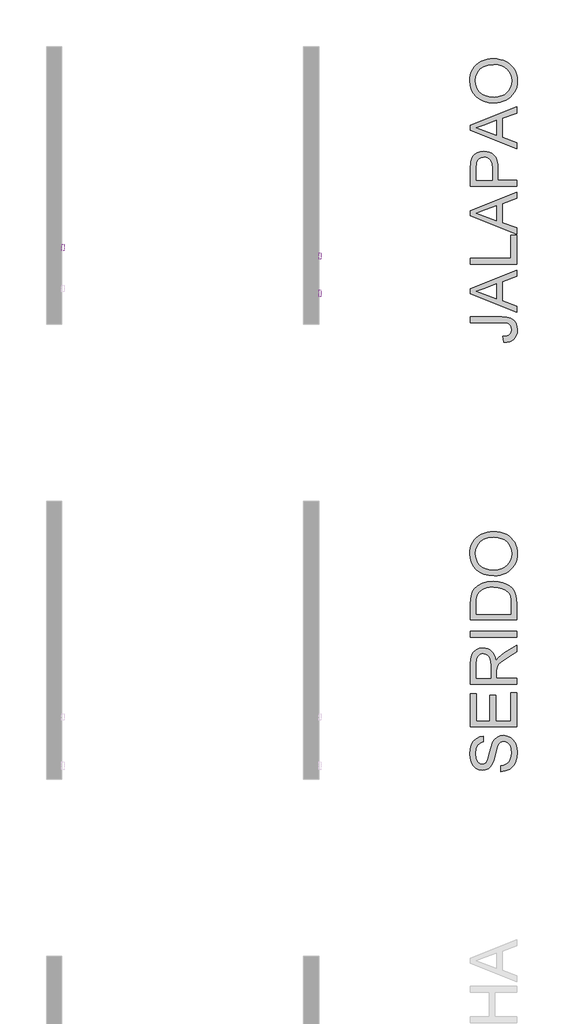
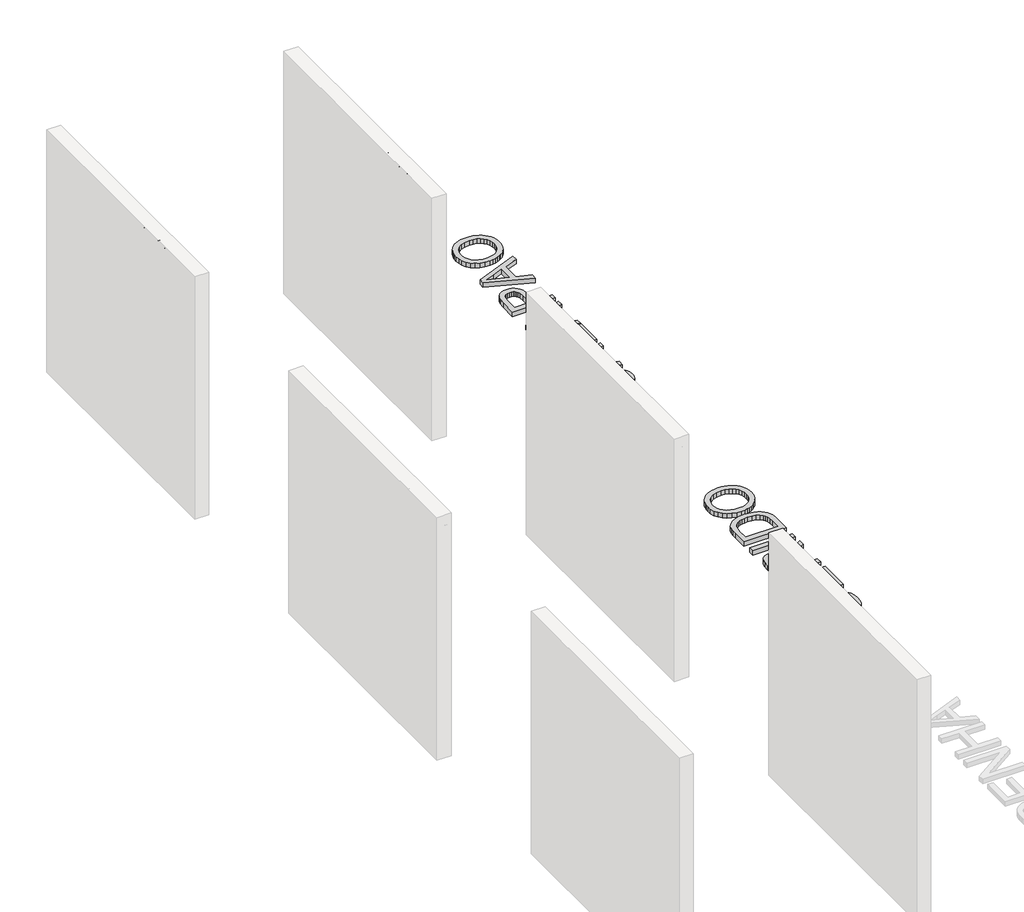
# One storey, part 10 of 11: 5 proxies.
"""IFC4 building model written with IfcOpenShell, lengths in millimetres."""

from ifc_helpers import new_model, si_unit, frame, origin, origin_with_axes, place, context, project, spatial, polyline, outline, extrude, element, save

model = new_model("IFC4")

# Units and contexts
model_context = context("Model", 3, world=origin())
ifc_project = project(units=[si_unit("LENGTHUNIT", "METRE", prefix="MILLI")], contexts=[model_context])

# Site, building, storey
site = spatial("IfcSite", under=ifc_project)
building = spatial("IfcBuilding", under=site)
storey = spatial("IfcBuildingStorey", under=building, Name="PORTOBELLO - SHOWROOM", Elevation=0.0)

# Proxies
placement = place(None, origin())
element("IfcBuildingElementProxy", 1, Name="10mm Arial", ObjectType="10mm Arial", at=placement, inside=storey, context=model_context, shape_type="SweptSolid", body=[
    extrude(outline(polyline([(6073.6705647, 2506.4304512), (6086.2276035, 2508.049132), (6090.5195601, 2493.2112249), (6101.1145616, 2489.2135739), (6109.7107375, 2491.4821795), (6114.6894072, 2497.662597), (6116.0505706, 2510.1092712), (6116.0505706, 2578.6824751), (6128.6076093, 2578.6824751), (6128.6076093, 2510.3300004), (6125.5787143, 2490.8199919), (6115.9647314, 2480.2863041), (6100.5259504, 2476.6565351), (6088.9192734, 2478.5296676), (6080.3905425, 2484.1490651), (6075.2156691, 2493.4656766), (6073.6705647, 2506.4304512)])), frame((-16783.2092306, 0.0, 0.0), z_axis=(1.0, 0.0, 0.0), x_axis=(0.0, 1.0, 0.0)), (0.0, 0.0, 1.0), 20.0),
    extrude(outline(polyline([(6196.1016927, 2487.643944), (6183.9247987, 2479.1336072), (6170.4725804, 2476.6565351), (6159.9787465, 2478.1464572), (6152.2378962, 2482.6162234), (6147.4646273, 2489.4036462), (6145.8735377, 2497.846538), (6148.2770334, 2507.7793519), (6154.5923409, 2514.989839), (6163.3847206, 2519.1101173), (6174.2495022, 2520.9985782), (6196.0281163, 2525.3150603), (6196.1016927, 2528.1109635), (6192.643602, 2537.3815898), (6178.762188, 2541.0113588), (6166.0579965, 2538.5956003), (6160.0002063, 2530.0239499), (6147.4431675, 2531.5935797), (6152.8755583, 2543.8563129), (6163.8139163, 2551.0422745), (6180.3808688, 2553.5683975), (6195.5989207, 2551.3365801), (6204.1950966, 2545.732511), (6208.0455948, 2537.2099115), (6208.6587315, 2526.2225026), (6208.6587315, 2510.5997805), (6209.2963936, 2488.7843782), (6211.7979912, 2478.2261649), (6199.2409524, 2478.2261649), (6196.1016927, 2487.643944)]), holes=[polyline([(6196.1016927, 2512.7580215), (6175.8436575, 2508.9075233), (6165.0401896, 2506.8719096), (6160.1473591, 2503.5609717), (6158.4305764, 2498.7294548), (6162.17071, 2491.9359006), (6173.1458562, 2489.2135739), (6185.8500478, 2492.2179435), (6194.0415536, 2499.4897443), (6196.0281163, 2509.2018289), (6196.1016927, 2512.7580215)])]), frame((-16783.2092306, 0.0, 0.0), z_axis=(1.0, 0.0, 0.0), x_axis=(0.0, 1.0, 0.0)), (0.0, 0.0, 1.0), 20.0),
    extrude(outline(polyline([(-16763.2092306, 6238.4816986), (-16763.2092306, 6225.9246598), (-16783.2092306, 6225.9246598), (-16783.2092306, 6238.4816986), (-16763.2092306, 6238.4816986)])), frame((0.0, 0.0, 2478.2261649), z_axis=(0.0, 0.0, 1.0), x_axis=(1.0, 0.0, 0.0)), (0.0, 0.0, 1.0), 100.4563101),
    extrude(outline(polyline([(6304.4061521, 2487.643944), (6292.2292581, 2479.1336072), (6278.7770398, 2476.6565351), (6268.2832059, 2478.1464572), (6260.5423556, 2482.6162234), (6255.7690867, 2489.4036462), (6254.177997, 2497.846538), (6256.5814927, 2507.7793519), (6262.8968003, 2514.989839), (6271.68918, 2519.1101173), (6282.5539616, 2520.9985782), (6304.3325757, 2525.3150603), (6304.4061521, 2528.1109635), (6300.9480614, 2537.3815898), (6287.0666474, 2541.0113588), (6274.3624558, 2538.5956003), (6268.3046657, 2530.0239499), (6255.7476269, 2531.5935797), (6261.1800177, 2543.8563129), (6272.1183757, 2551.0422745), (6288.6853282, 2553.5683975), (6303.9033801, 2551.3365801), (6312.499556, 2545.732511), (6316.3500542, 2537.2099115), (6316.9631909, 2526.2225026), (6316.9631909, 2510.5997805), (6317.600853, 2488.7843782), (6320.1024506, 2478.2261649), (6307.5454118, 2478.2261649), (6304.4061521, 2487.643944)]), holes=[polyline([(6304.4061521, 2512.7580215), (6284.1481169, 2508.9075233), (6273.344649, 2506.8719096), (6268.4518184, 2503.5609717), (6266.7350358, 2498.7294548), (6270.4751694, 2491.9359006), (6281.4503156, 2489.2135739), (6294.1545072, 2492.2179435), (6302.3460129, 2499.4897443), (6304.3325757, 2509.2018289), (6304.4061521, 2512.7580215)])]), frame((-16783.2092306, 0.0, 0.0), z_axis=(1.0, 0.0, 0.0), x_axis=(0.0, 1.0, 0.0)), (0.0, 0.0, 1.0), 20.0),
    extrude(outline(polyline([(6334.2291192, 2449.9728277), (6334.2291192, 2551.9987677), (6346.786158, 2551.9987677), (6346.786158, 2539.6869836), (6355.468173, 2550.0980441), (6367.191346, 2553.5683975), (6383.1083736, 2548.7123552), (6393.5071713, 2535.027145), (6397.014313, 2515.676552), (6393.0534502, 2495.3326777), (6381.5510065, 2481.4757892), (6365.670767, 2476.6565351), (6354.7446718, 2479.8816339), (6346.786158, 2488.0363515), (6346.786158, 2449.9728277), (6334.2291192, 2449.9728277)]), holes=[polyline([(6346.786158, 2514.5238551), (6348.1442557, 2503.2666661), (6352.2185488, 2495.3939914), (6358.2303537, 2490.7586782), (6365.4009869, 2489.2135739), (6372.6881161, 2490.8138605), (6378.8532052, 2495.6147206), (6383.056257, 2503.7755695), (6384.4572743, 2515.4558228), (6383.0899795, 2526.6516982), (6378.9880953, 2534.6347375), (6372.9854874, 2539.4172035), (6365.9160217, 2541.0113588), (6358.8189649, 2539.3160359), (6352.5864307, 2534.2300673), (6348.2362262, 2525.9128686), (6346.786158, 2514.5238551)])]), frame((-16783.2092306, 0.0, 0.0), z_axis=(1.0, 0.0, 0.0), x_axis=(0.0, 1.0, 0.0)), (0.0, 0.0, 1.0), 20.0),
    extrude(outline(polyline([(6458.229877, 2487.643944), (6446.052983, 2479.1336072), (6432.6007647, 2476.6565351), (6422.1069308, 2478.1464572), (6414.3660805, 2482.6162234), (6409.5928116, 2489.4036462), (6408.001722, 2497.846538), (6410.4052177, 2507.7793519), (6416.7205252, 2514.989839), (6425.5129049, 2519.1101173), (6436.3776865, 2520.9985782), (6458.1563006, 2525.3150603), (6458.229877, 2528.1109635), (6454.7717863, 2537.3815898), (6440.8903723, 2541.0113588), (6428.1861808, 2538.5956003), (6422.1283906, 2530.0239499), (6409.5713518, 2531.5935797), (6415.0037426, 2543.8563129), (6425.9421006, 2551.0422745), (6442.5090531, 2553.5683975), (6457.727105, 2551.3365801), (6466.3232809, 2545.732511), (6470.1737791, 2537.2099115), (6470.7869158, 2526.2225026), (6470.7869158, 2510.5997805), (6471.4245779, 2488.7843782), (6473.9261755, 2478.2261649), (6461.3691367, 2478.2261649), (6458.229877, 2487.643944)]), holes=[polyline([(6458.229877, 2512.7580215), (6437.9718418, 2508.9075233), (6427.1683739, 2506.8719096), (6422.2755434, 2503.5609717), (6420.5587607, 2498.7294548), (6424.2988943, 2491.9359006), (6435.2740405, 2489.2135739), (6447.9782321, 2492.2179435), (6456.1697379, 2499.4897443), (6458.1563006, 2509.2018289), (6458.229877, 2512.7580215)])]), frame((-16783.2092306, 0.0, 0.0), z_axis=(1.0, 0.0, 0.0), x_axis=(0.0, 1.0, 0.0)), (0.0, 0.0, 1.0), 20.0),
    extrude(outline(polyline([(6484.9135844, 2515.1124663), (6487.6297798, 2532.8995608), (6495.778366, 2545.4014173), (6505.8460699, 2551.5266525), (6517.9003366, 2553.5683975), (6531.0919719, 2551.0821284), (6541.6287253, 2543.6233209), (6548.5357098, 2531.7805864), (6550.8380379, 2516.1425359), (6546.7668105, 2493.7998361), (6534.9087476, 2481.1569582), (6517.9003366, 2476.6565351), (6504.5492859, 2479.1336072), (6494.0247952, 2486.5648235), (6487.1913871, 2498.6558784), (6484.9135844, 2515.1124663)]), holes=[polyline([(6497.4706232, 2515.1369918), (6498.9237571, 2503.7725038), (6503.2831587, 2495.6760342), (6509.843721, 2490.829189), (6517.9003366, 2489.2135739), (6525.9201641, 2490.838386), (6532.4684637, 2495.7128224), (6536.8278653, 2503.9165909), (6538.2809992, 2515.5293992), (6536.8186682, 2526.5627934), (6532.4316755, 2534.5488984), (6525.8741789, 2539.3957437), (6517.9003366, 2541.0113588), (6509.843721, 2539.401875), (6503.2831587, 2534.5734239), (6498.9237571, 2526.4953484), (6497.4706232, 2515.1369918)])]), frame((-16783.2092306, 0.0, 0.0), z_axis=(1.0, 0.0, 0.0), x_axis=(0.0, 1.0, 0.0)), (0.0, 0.0, 1.0), 20.0),
])
element("IfcBuildingElementProxy", 2, Name="10mm Arial Narrow", ObjectType="10mm Arial Narrow", at=placement, inside=storey, context=model_context, shape_type="SweptSolid", body=[
    extrude(outline(polyline([(6617.0841432, 2478.2261649), (6617.0841432, 2578.9447687), (6648.3810279, 2578.9447687), (6664.6767294, 2577.066448), (6676.1497156, 2567.5860048), (6680.439394, 2550.566896), (6678.6530856, 2538.4910704), (6673.2941604, 2528.8646766), (6663.5503716, 2522.5634182), (6648.6094723, 2520.4629988), (6626.8311049, 2520.4629988), (6626.8311049, 2478.2261649), (6617.0841432, 2478.2261649)]), holes=[polyline([(6626.8311049, 2531.834454), (6649.8024598, 2531.834454), (6665.6666552, 2536.3652682), (6670.6924323, 2550.033859), (6668.2176179, 2560.1996354), (6662.239989, 2565.9995852), (6649.5740154, 2567.5733134), (6626.8311049, 2567.5733134), (6626.8311049, 2531.834454)])]), frame((-16783.2092306, 0.0, 0.0), z_axis=(1.0, 0.0, 0.0), x_axis=(0.0, 1.0, 0.0)), (0.0, 0.0, 1.0), 20.0),
    extrude(outline(polyline([(6688.561862, 2514.7772711), (6690.5163309, 2531.3680467), (6696.3797375, 2543.3201315), (6705.2383042, 2550.5446861), (6716.1782534, 2552.9528709), (6726.991289, 2550.5446861), (6735.8752384, 2543.3201315), (6741.8147932, 2531.558417), (6743.7946447, 2515.5387525), (6741.8496944, 2498.3768659), (6736.0148433, 2486.2344108), (6727.1657951, 2479.0098562), (6716.1782534, 2476.6016713), (6705.3176252, 2479.0162019), (6696.4431943, 2486.2597935), (6690.5321951, 2498.218224), (6688.561862, 2514.7772711)]), holes=[polyline([(6698.3088237, 2514.8026538), (6699.6128606, 2502.2509024), (6703.5249711, 2493.3796444), (6709.3661679, 2488.1063858), (6716.4574632, 2486.348633), (6723.1775364, 2488.12225), (6728.8696097, 2493.4431012), (6732.7531647, 2502.3302234), (6734.0476831, 2514.8026538), (6732.7436462, 2527.3163312), (6728.8315356, 2536.1748979), (6722.9903389, 2541.4481564), (6715.8990435, 2543.2059093), (6709.1313778, 2541.4386379), (6703.448823, 2536.1368238), (6699.5938235, 2527.2687386), (6698.3088237, 2514.8026538)])]), frame((-16783.2092306, 0.0, 0.0), z_axis=(1.0, 0.0, 0.0), x_axis=(0.0, 1.0, 0.0)), (0.0, 0.0, 1.0), 20.0),
    extrude(outline(polyline([(6815.2723635, 2486.348633), (6816.8968571, 2476.6016713), (6809.5358705, 2476.6016713), (6801.2611062, 2478.7211278), (6796.946045, 2484.5210777), (6795.7784402, 2499.1669029), (6795.7784402, 2541.5814157), (6787.6559722, 2541.5814157), (6787.6559722, 2544.8304029), (6786.0314786, 2539.9569221), (6778.4674302, 2541.5814157), (6772.3882705, 2539.2588975), (6768.5174068, 2532.7736144), (6766.5375553, 2517.3663078), (6766.5375553, 2478.2261649), (6756.7905936, 2478.2261649), (6756.7905936, 2551.3283773), (6766.5375553, 2551.3283773), (6766.5375553, 2541.6321811), (6772.7817026, 2550.7191922), (6779.1781462, 2552.9528709), (6787.6559722, 2551.3283773), (6795.7784402, 2551.3283773), (6795.7784402, 2567.5733134), (6805.5254019, 2575.6957815), (6805.5254019, 2551.3283773), (6815.2723635, 2551.3283773), (6815.2723635, 2541.5814157), (6805.5254019, 2541.5814157), (6805.5254019, 2496.9332241), (6806.3884141, 2488.9376697), (6811.0080678, 2486.348633), (6815.2723635, 2486.348633)])), frame((-16783.2092306, 0.0, 0.0), z_axis=(1.0, 0.0, 0.0), x_axis=(0.0, 1.0, 0.0)), (0.0, 0.0, 1.0), 20.0),
    extrude(outline(polyline([(6821.770338, 2514.7772711), (6823.7248068, 2531.3680467), (6829.5882135, 2543.3201315), (6838.4467802, 2550.5446861), (6849.3867293, 2552.9528709), (6860.1997649, 2550.5446861), (6869.0837143, 2543.3201315), (6875.0232691, 2531.558417), (6877.0031207, 2515.5387525), (6875.0581703, 2498.3768659), (6869.2233192, 2486.2344108), (6860.3742711, 2479.0098562), (6849.3867293, 2476.6016713), (6838.5261011, 2479.0162019), (6829.6516702, 2486.2597935), (6823.740671, 2498.218224), (6821.770338, 2514.7772711)]), holes=[polyline([(6831.5172996, 2514.8026538), (6832.8213365, 2502.2509024), (6836.7334471, 2493.3796444), (6842.5746438, 2488.1063858), (6849.6659392, 2486.348633), (6856.3860123, 2488.12225), (6862.0780856, 2493.4431012), (6865.9616407, 2502.3302234), (6867.256159, 2514.8026538), (6865.9521222, 2527.3163312), (6862.0400116, 2536.1748979), (6856.1988148, 2541.4481564), (6849.1075195, 2543.2059093), (6842.3398537, 2541.4386379), (6836.6572989, 2536.1368238), (6832.8022994, 2527.2687386), (6831.5172996, 2514.8026538)])]), frame((-16783.2092306, 0.0, 0.0), z_axis=(1.0, 0.0, 0.0), x_axis=(0.0, 1.0, 0.0)), (0.0, 0.0, 1.0), 20.0),
    extrude(outline(polyline([(6899.7460312, 2478.2261649), (6889.9990695, 2478.2261649), (6889.9990695, 2578.9447687), (6899.7460312, 2578.9447687), (6899.7460312, 2543.5358846), (6907.1450919, 2550.6176614), (6916.3463253, 2552.9528709), (6929.2280519, 2548.752032), (6938.5054334, 2536.0226016), (6941.982865, 2515.3356908), (6940.050606, 2498.8813473), (6934.253829, 2486.6786082), (6925.8807067, 2479.1209056), (6916.2194117, 2476.6016713), (6906.8785734, 2479.2160907), (6899.7460312, 2486.9832008), (6899.7460312, 2478.2261649)]), holes=[polyline([(6899.7460312, 2515.3356908), (6901.8274136, 2498.0881376), (6907.716203, 2489.3564844), (6916.1686463, 2486.348633), (6922.1113739, 2488.1381142), (6927.3497312, 2493.5065579), (6932.2359034, 2514.9295674), (6927.5274102, 2536.3652682), (6922.2827072, 2541.495749), (6915.9655846, 2543.2059093), (6909.9879557, 2541.416428), (6904.6956602, 2536.0479843), (6899.7460312, 2515.3356908)])]), frame((-16783.2092306, 0.0, 0.0), z_axis=(1.0, 0.0, 0.0), x_axis=(0.0, 1.0, 0.0)), (0.0, 0.0, 1.0), 20.0),
    extrude(outline(polyline([(6993.9666605, 2500.9690755), (7003.7136222, 2499.3445819), (7000.0140918, 2489.4580153), (6994.1951049, 2482.3381644), (6986.4914516, 2478.0357946), (6977.137922, 2476.6016713), (6965.544368, 2479.0162019), (6956.4002458, 2486.2597935), (6950.460691, 2498.0659277), (6948.4808395, 2514.168086), (6950.4702096, 2530.8350097), (6956.4383199, 2543.0155389), (6965.4523557, 2550.4685379), (6976.5795024, 2552.9528709), (6987.2624515, 2550.5542046), (6996.0099689, 2543.3582056), (7001.8448199, 2531.618701), (7003.7897703, 2515.5895179), (7003.7136222, 2512.3405307), (6958.2278011, 2512.3405307), (6964.2308127, 2492.8973728), (6970.1608489, 2487.9858179), (6977.2648356, 2486.348633), (6987.4433034, 2490.0037436), (6993.9666605, 2500.9690755)]), holes=[polyline([(6958.8877516, 2522.0874924), (6993.9666605, 2522.0874924), (6989.7023648, 2536.3525769), (6983.8770322, 2541.4925762), (6976.6556505, 2543.2059093), (6964.4465657, 2537.4947989), (6958.8877516, 2522.0874924)])]), frame((-16783.2092306, 0.0, 0.0), z_axis=(1.0, 0.0, 0.0), x_axis=(0.0, 1.0, 0.0)), (0.0, 0.0, 1.0), 20.0),
    extrude(outline(polyline([(-16763.2092306, 7026.4565327), (-16763.2092306, 7016.709571), (-16783.2092306, 7016.709571), (-16783.2092306, 7026.4565327), (-16763.2092306, 7026.4565327)])), frame((0.0, 0.0, 2478.2261649), z_axis=(0.0, 0.0, 1.0), x_axis=(1.0, 0.0, 0.0)), (0.0, 0.0, 1.0), 100.7186038),
    extrude(outline(polyline([(-16763.2092306, 7052.4484304), (-16763.2092306, 7042.7014688), (-16783.2092306, 7042.7014688), (-16783.2092306, 7052.4484304), (-16763.2092306, 7052.4484304)])), frame((0.0, 0.0, 2478.2261649), z_axis=(0.0, 0.0, 1.0), x_axis=(1.0, 0.0, 0.0)), (0.0, 0.0, 1.0), 100.7186038),
    extrude(outline(polyline([(7063.8198857, 2514.7772711), (7065.7743546, 2531.3680467), (7071.6377612, 2543.3201315), (7080.4963279, 2550.5446861), (7091.436277, 2552.9528709), (7102.2493126, 2550.5446861), (7111.1332621, 2543.3201315), (7117.0728168, 2531.558417), (7119.0526684, 2515.5387525), (7117.107718, 2498.3768659), (7111.272867, 2486.2344108), (7102.4238188, 2479.0098562), (7091.436277, 2476.6016713), (7080.5756489, 2479.0162019), (7071.701218, 2486.2597935), (7065.7902188, 2498.218224), (7063.8198857, 2514.7772711)]), holes=[polyline([(7073.5668473, 2514.8026538), (7074.8708842, 2502.2509024), (7078.7829948, 2493.3796444), (7084.6241915, 2488.1063858), (7091.7154869, 2486.348633), (7098.4355601, 2488.12225), (7104.1276334, 2493.4431012), (7108.0111884, 2502.3302234), (7109.3057067, 2514.8026538), (7108.0016699, 2527.3163312), (7104.0895593, 2536.1748979), (7098.2483626, 2541.4481564), (7091.1570672, 2543.2059093), (7084.3894015, 2541.4386379), (7078.7068467, 2536.1368238), (7074.8518472, 2527.2687386), (7073.5668473, 2514.8026538)])]), frame((-16783.2092306, 0.0, 0.0), z_axis=(1.0, 0.0, 0.0), x_axis=(0.0, 1.0, 0.0)), (0.0, 0.0, 1.0), 20.0),
])
element("IfcBuildingElementProxy", 3, Name="10mm Arial Narrow", ObjectType="10mm Arial Narrow", at=placement, inside=storey, context=model_context, shape_type="SweptSolid", body=[
    extrude(outline(polyline([(6697.0841432, 2478.2261649), (6697.0841432, 2578.9447687), (6728.3810279, 2578.9447687), (6744.6767294, 2577.066448), (6756.1497156, 2567.5860048), (6760.439394, 2550.566896), (6758.6530856, 2538.4910704), (6753.2941604, 2528.8646766), (6743.5503716, 2522.5634182), (6728.6094723, 2520.4629988), (6706.8311049, 2520.4629988), (6706.8311049, 2478.2261649), (6697.0841432, 2478.2261649)]), holes=[polyline([(6706.8311049, 2531.834454), (6729.8024598, 2531.834454), (6745.6666552, 2536.3652682), (6750.6924323, 2550.033859), (6748.2176179, 2560.1996354), (6742.239989, 2565.9995852), (6729.5740154, 2567.5733134), (6706.8311049, 2567.5733134), (6706.8311049, 2531.834454)])]), frame((-19283.2092306, 0.0, 0.0), z_axis=(1.0, 0.0, 0.0), x_axis=(0.0, 1.0, 0.0)), (0.0, 0.0, 1.0), 20.0),
    extrude(outline(polyline([(6768.561862, 2514.7772711), (6770.5163309, 2531.3680467), (6776.3797375, 2543.3201315), (6785.2383042, 2550.5446861), (6796.1782534, 2552.9528709), (6806.991289, 2550.5446861), (6815.8752384, 2543.3201315), (6821.8147932, 2531.558417), (6823.7946447, 2515.5387525), (6821.8496944, 2498.3768659), (6816.0148433, 2486.2344108), (6807.1657951, 2479.0098562), (6796.1782534, 2476.6016713), (6785.3176252, 2479.0162019), (6776.4431943, 2486.2597935), (6770.5321951, 2498.218224), (6768.561862, 2514.7772711)]), holes=[polyline([(6778.3088237, 2514.8026538), (6779.6128605, 2502.2509024), (6783.5249711, 2493.3796444), (6789.3661679, 2488.1063858), (6796.4574632, 2486.348633), (6803.1775364, 2488.12225), (6808.8696097, 2493.4431012), (6812.7531647, 2502.3302234), (6814.0476831, 2514.8026538), (6812.7436462, 2527.3163312), (6808.8315356, 2536.1748979), (6802.9903389, 2541.4481564), (6795.8990435, 2543.2059093), (6789.1313778, 2541.4386379), (6783.448823, 2536.1368238), (6779.5938235, 2527.2687386), (6778.3088237, 2514.8026538)])]), frame((-19283.2092306, 0.0, 0.0), z_axis=(1.0, 0.0, 0.0), x_axis=(0.0, 1.0, 0.0)), (0.0, 0.0, 1.0), 20.0),
    extrude(outline(polyline([(6895.2723635, 2486.348633), (6896.8968571, 2476.6016713), (6889.5358705, 2476.6016713), (6881.2611062, 2478.7211278), (6876.946045, 2484.5210777), (6875.7784402, 2499.1669029), (6875.7784402, 2541.5814157), (6867.6559722, 2541.5814157), (6867.6559722, 2544.8304029), (6866.0314786, 2539.9569221), (6858.4674302, 2541.5814157), (6852.3882705, 2539.2588975), (6848.5174068, 2532.7736144), (6846.5375553, 2517.3663078), (6846.5375553, 2478.2261649), (6836.7905936, 2478.2261649), (6836.7905936, 2551.3283773), (6846.5375553, 2551.3283773), (6846.5375553, 2541.6321811), (6852.7817026, 2550.7191922), (6859.1781462, 2552.9528709), (6867.6559722, 2551.3283773), (6875.7784402, 2551.3283773), (6875.7784402, 2567.5733134), (6885.5254019, 2575.6957815), (6885.5254019, 2551.3283773), (6895.2723635, 2551.3283773), (6895.2723635, 2541.5814157), (6885.5254019, 2541.5814157), (6885.5254019, 2496.9332241), (6886.3884141, 2488.9376697), (6891.0080678, 2486.348633), (6895.2723635, 2486.348633)])), frame((-19283.2092306, 0.0, 0.0), z_axis=(1.0, 0.0, 0.0), x_axis=(0.0, 1.0, 0.0)), (0.0, 0.0, 1.0), 20.0),
    extrude(outline(polyline([(6901.770338, 2514.7772711), (6903.7248068, 2531.3680467), (6909.5882135, 2543.3201315), (6918.4467802, 2550.5446861), (6929.3867293, 2552.9528709), (6940.1997649, 2550.5446861), (6949.0837143, 2543.3201315), (6955.0232691, 2531.558417), (6957.0031207, 2515.5387525), (6955.0581703, 2498.3768659), (6949.2233192, 2486.2344108), (6940.3742711, 2479.0098562), (6929.3867293, 2476.6016713), (6918.5261011, 2479.0162019), (6909.6516702, 2486.2597935), (6903.740671, 2498.218224), (6901.770338, 2514.7772711)]), holes=[polyline([(6911.5172996, 2514.8026538), (6912.8213365, 2502.2509024), (6916.7334471, 2493.3796444), (6922.5746438, 2488.1063858), (6929.6659392, 2486.348633), (6936.3860123, 2488.12225), (6942.0780856, 2493.4431012), (6945.9616407, 2502.3302234), (6947.256159, 2514.8026538), (6945.9521222, 2527.3163312), (6942.0400116, 2536.1748979), (6936.1988148, 2541.4481564), (6929.1075195, 2543.2059093), (6922.3398537, 2541.4386379), (6916.6572989, 2536.1368238), (6912.8022994, 2527.2687386), (6911.5172996, 2514.8026538)])]), frame((-19283.2092306, 0.0, 0.0), z_axis=(1.0, 0.0, 0.0), x_axis=(0.0, 1.0, 0.0)), (0.0, 0.0, 1.0), 20.0),
    extrude(outline(polyline([(6979.7460312, 2478.2261649), (6969.9990695, 2478.2261649), (6969.9990695, 2578.9447687), (6979.7460312, 2578.9447687), (6979.7460312, 2543.5358846), (6987.1450919, 2550.6176614), (6996.3463253, 2552.9528709), (7009.2280519, 2548.752032), (7018.5054334, 2536.0226016), (7021.982865, 2515.3356908), (7020.050606, 2498.8813473), (7014.253829, 2486.6786082), (7005.8807067, 2479.1209056), (6996.2194117, 2476.6016713), (6986.8785734, 2479.2160907), (6979.7460312, 2486.9832008), (6979.7460312, 2478.2261649)]), holes=[polyline([(6979.7460312, 2515.3356908), (6981.8274136, 2498.0881376), (6987.716203, 2489.3564844), (6996.1686463, 2486.348633), (7002.1113739, 2488.1381142), (7007.3497312, 2493.5065579), (7012.2359034, 2514.9295674), (7007.5274102, 2536.3652682), (7002.2827072, 2541.495749), (6995.9655846, 2543.2059093), (6989.9879557, 2541.416428), (6984.6956602, 2536.0479843), (6979.7460312, 2515.3356908)])]), frame((-19283.2092306, 0.0, 0.0), z_axis=(1.0, 0.0, 0.0), x_axis=(0.0, 1.0, 0.0)), (0.0, 0.0, 1.0), 20.0),
    extrude(outline(polyline([(7073.9666605, 2500.9690755), (7083.7136222, 2499.3445819), (7080.0140918, 2489.4580153), (7074.1951049, 2482.3381644), (7066.4914516, 2478.0357946), (7057.137922, 2476.6016713), (7045.544368, 2479.0162019), (7036.4002458, 2486.2597935), (7030.460691, 2498.0659277), (7028.4808395, 2514.168086), (7030.4702096, 2530.8350097), (7036.4383199, 2543.0155389), (7045.4523557, 2550.4685379), (7056.5795024, 2552.9528709), (7067.2624515, 2550.5542046), (7076.0099689, 2543.3582056), (7081.8448199, 2531.618701), (7083.7897703, 2515.5895179), (7083.7136222, 2512.3405307), (7038.2278011, 2512.3405307), (7044.2308127, 2492.8973728), (7050.1608489, 2487.9858179), (7057.2648356, 2486.348633), (7067.4433034, 2490.0037436), (7073.9666605, 2500.9690755)]), holes=[polyline([(7038.8877516, 2522.0874924), (7073.9666605, 2522.0874924), (7069.7023648, 2536.3525769), (7063.8770322, 2541.4925762), (7056.6556505, 2543.2059093), (7044.4465657, 2537.4947989), (7038.8877516, 2522.0874924)])]), frame((-19283.2092306, 0.0, 0.0), z_axis=(1.0, 0.0, 0.0), x_axis=(0.0, 1.0, 0.0)), (0.0, 0.0, 1.0), 20.0),
    extrude(outline(polyline([(-19263.2092306, 7106.4565327), (-19263.2092306, 7096.709571), (-19283.2092306, 7096.709571), (-19283.2092306, 7106.4565327), (-19263.2092306, 7106.4565327)])), frame((0.0, 0.0, 2478.2261649), z_axis=(0.0, 0.0, 1.0), x_axis=(1.0, 0.0, 0.0)), (0.0, 0.0, 1.0), 100.7186038),
    extrude(outline(polyline([(-19263.2092306, 7132.4484304), (-19263.2092306, 7122.7014688), (-19283.2092306, 7122.7014688), (-19283.2092306, 7132.4484304), (-19263.2092306, 7132.4484304)])), frame((0.0, 0.0, 2478.2261649), z_axis=(0.0, 0.0, 1.0), x_axis=(1.0, 0.0, 0.0)), (0.0, 0.0, 1.0), 100.7186038),
    extrude(outline(polyline([(7143.8198857, 2514.7772711), (7145.7743546, 2531.3680467), (7151.6377612, 2543.3201315), (7160.4963279, 2550.5446861), (7171.436277, 2552.9528709), (7182.2493126, 2550.5446861), (7191.1332621, 2543.3201315), (7197.0728168, 2531.558417), (7199.0526684, 2515.5387525), (7197.107718, 2498.3768659), (7191.272867, 2486.2344108), (7182.4238188, 2479.0098562), (7171.436277, 2476.6016713), (7160.5756489, 2479.0162019), (7151.701218, 2486.2597935), (7145.7902188, 2498.218224), (7143.8198857, 2514.7772711)]), holes=[polyline([(7153.5668473, 2514.8026538), (7154.8708842, 2502.2509024), (7158.7829948, 2493.3796444), (7164.6241915, 2488.1063858), (7171.7154869, 2486.348633), (7178.4355601, 2488.12225), (7184.1276334, 2493.4431012), (7188.0111884, 2502.3302234), (7189.3057067, 2514.8026538), (7188.0016699, 2527.3163312), (7184.0895593, 2536.1748979), (7178.2483626, 2541.4481564), (7171.1570672, 2543.2059093), (7164.3894014, 2541.4386379), (7158.7068467, 2536.1368238), (7154.8518472, 2527.2687386), (7153.5668473, 2514.8026538)])]), frame((-19283.2092306, 0.0, 0.0), z_axis=(1.0, 0.0, 0.0), x_axis=(0.0, 1.0, 0.0)), (0.0, 0.0, 1.0), 20.0),
])
element("IfcBuildingElementProxy", 4, Name="450mm Arial", ObjectType="450mm Arial", at=placement, inside=storey, context=model_context, shape_type="SweptSolid", body=[
    extrude(outline(polyline([(-14986.4291634, 5810.6674106), (-14993.6745993, 5866.8744284), (-14952.8092431, 5872.7201778), (-14938.1193962, 5878.4630091), (-14927.2581036, 5886.0858115), (-14913.8375803, 5906.5047672), (-14909.3640725, 5933.5104828), (-14911.9027196, 5954.2724989), (-14919.5186607, 5971.9881386), (-14931.5120527, 5985.6556654), (-14947.1830523, 5994.2733429), (-14969.8662067, 5998.8429076), (-15002.8960632, 6000.3660958), (-15309.8390747, 6000.3660958), (-15309.8390747, 6056.5731137), (-15003.8840772, 6056.5731137), (-14953.8384243, 6053.1836768), (-14916.5546188, 6043.0153662), (-14889.3156221, 6025.4781179), (-14869.4043958, 5999.9818681), (-14857.21889, 5967.9674705), (-14853.1570547, 5930.8757788), (-14855.2531538, 5903.1770812), (-14861.5414511, 5878.9227101), (-14872.0219467, 5858.1126655), (-14886.6946405, 5840.7469475), (-14905.5046429, 5827.1343103), (-14928.3970642, 5817.5835085), (-14955.3719043, 5812.0945419), (-14986.4291634, 5810.6674106)])), origin_with_axes(), (0.0, 0.0, 1.0), 50.0),
    extrude(outline(polyline([(-14860.1829319, 6102.5706537), (-15309.8390747, 6282.0598611), (-15309.8390747, 6329.9236497), (-14860.1829319, 6509.4128571), (-14860.1829319, 6450.0222386), (-15000.7004765, 6398.535732), (-15000.7004765, 6213.3379994), (-14860.1829319, 6161.9612721), (-14860.1829319, 6102.5706537)]), holes=[polyline([(-15056.9074944, 6233.9765138), (-15056.9074944, 6378.006997), (-15167.4552815, 6337.4984236), (-15253.6320569, 6305.9917554), (-15177.1158627, 6277.9980258), (-15056.9074944, 6233.9765138)])]), origin_with_axes(), (0.0, 0.0, 1.0), 50.0),
    extrude(outline(polyline([(-14860.1829319, 6569.4621516), (-15309.8390747, 6569.4621516), (-15309.8390747, 6625.6691694), (-14916.3899498, 6625.6691694), (-14916.3899498, 6850.4972408), (-14860.1829319, 6850.4972408), (-14860.1829319, 6569.4621516)])), origin_with_axes(), (0.0, 0.0, 1.0), 50.0),
    extrude(outline(polyline([(-14860.1829319, 6861.3653947), (-15309.8390747, 7040.8546021), (-15309.8390747, 7088.7183907), (-14860.1829319, 7268.2075981), (-14860.1829319, 7208.8169796), (-15000.7004765, 7157.330473), (-15000.7004765, 6972.1327404), (-14860.1829319, 6920.7560131), (-14860.1829319, 6861.3653947)]), holes=[polyline([(-15056.9074944, 6992.7712548), (-15056.9074944, 7136.801738), (-15167.4552815, 7096.2931646), (-15253.6320569, 7064.7864964), (-15177.1158627, 7036.7927668), (-15056.9074944, 6992.7712548)])]), origin_with_axes(), (0.0, 0.0, 1.0), 50.0),
    extrude(outline(polyline([(-14860.1829319, 7328.2568926), (-15309.8390747, 7328.2568926), (-15309.8390747, 7494.9019181), (-15305.5576808, 7562.0868692), (-15297.557512, 7592.0429043), (-15284.5349388, 7616.7020867), (-15265.8998972, 7636.5584233), (-15241.0623234, 7652.1059212), (-15211.7649642, 7662.1507301), (-15179.7505666, 7665.4989997), (-15152.1479259, 7663.2382316), (-15126.7545942, 7656.4559272), (-15103.5705716, 7645.1520867), (-15082.595858, 7629.3267099), (-15065.2095564, 7607.600694), (-15052.7907695, 7578.5949362), (-15045.3394973, 7542.3094364), (-15042.8557399, 7498.7441948), (-15042.8557399, 7384.4639104), (-14860.1829319, 7384.4639104), (-14860.1829319, 7328.2568926)]), holes=[polyline([(-15099.0627578, 7384.4639104), (-15099.0627578, 7502.0375747), (-15104.2223864, 7551.8773913), (-15110.6719221, 7570.4575432), (-15119.7012722, 7584.8111908), (-15131.0702942, 7595.5215369), (-15144.538846, 7603.1717841), (-15160.1069274, 7607.7619324), (-15177.7745386, 7609.2919818), (-15203.0237849, 7605.6829863), (-15224.3209753, 7594.8559997), (-15240.3487577, 7578.1558189), (-15249.7897803, 7556.9272406), (-15253.6320569, 7500.7202227), (-15253.6320569, 7384.4639104), (-15099.0627578, 7384.4639104)])]), origin_with_axes(), (0.0, 0.0, 1.0), 50.0),
    extrude(outline(polyline([(-14860.1829319, 7690.418908), (-15309.8390747, 7869.9081154), (-15309.8390747, 7917.771904), (-14860.1829319, 8097.2611114), (-14860.1829319, 8037.8704929), (-15000.7004765, 7986.3839864), (-15000.7004765, 7801.1862537), (-14860.1829319, 7749.8095265), (-14860.1829319, 7690.418908)]), holes=[polyline([(-15056.9074944, 7821.8247681), (-15056.9074944, 7965.8552513), (-15167.4552815, 7925.3466779), (-15253.6320569, 7893.8400097), (-15177.1158627, 7865.8462801), (-15056.9074944, 7821.8247681)])]), origin_with_axes(), (0.0, 0.0, 1.0), 50.0),
    extrude(outline(polyline([(-15079.0829194, 8136.2327742), (-15131.8250271, 8139.9789939), (-15178.5155491, 8151.217653), (-15219.1544855, 8169.9487515), (-15253.7418362, 8196.1722893), (-15281.3581994, 8228.3170499), (-15301.084173, 8264.8118165), (-15312.9197572, 8305.6565891), (-15316.864952, 8350.8513677), (-15315.0124257, 8381.1024348), (-15309.4548471, 8409.8303137), (-15300.192216, 8437.0350044), (-15287.2245324, 8462.7165068), (-15270.9428853, 8486.1543941), (-15251.7383634, 8506.6282395), (-15229.6109669, 8524.1380429), (-15204.5606956, 8538.6838044), (-15177.1570299, 8550.1145773), (-15147.9694501, 8558.2794151), (-15116.9979561, 8563.1783178), (-15084.242548, 8564.8112853), (-15051.0548838, 8563.0925526), (-15019.6648561, 8557.9363547), (-14990.072465, 8549.3426913), (-14962.2777104, 8537.3115627), (-14937.0147417, 8522.1277089), (-14915.0177081, 8504.07587), (-14896.2866096, 8483.1560461), (-14880.8214463, 8459.3682372), (-14868.718275, 8433.6489981), (-14860.0731526, 8406.9348838), (-14854.8860792, 8379.2258944), (-14853.1570547, 8350.5220298), (-14855.0679012, 8319.7426496), (-14860.8004407, 8290.6374043), (-14870.3546731, 8263.2062938), (-14883.7305986, 8237.4493181), (-14900.4101958, 8214.0388756), (-14919.8754435, 8193.6473647), (-14942.1263418, 8176.2747854), (-14967.1628907, 8161.9211378), (-14993.9799231, 8150.6824787), (-15021.572272, 8142.6548651), (-15049.9399374, 8137.8382969), (-15079.0829194, 8136.2327742)]), holes=[polyline([(-15078.5340227, 8192.439792), (-15041.2708008, 8195.2494568), (-15008.1929159, 8203.6784511), (-14979.3003681, 8217.726775), (-14954.5931572, 8237.3944284), (-14934.8054327, 8261.3023085), (-14920.6713437, 8288.0713124), (-14912.1908903, 8317.7014402), (-14909.3640725, 8350.1926918), (-14912.2183352, 8383.2397012), (-14920.781123, 8413.2197506), (-14935.0524362, 8440.1328399), (-14955.0322745, 8463.9789691), (-14980.2609372, 8483.5025371), (-15010.2787232, 8497.4479429), (-15045.0856326, 8505.8151863), (-15084.6816653, 8508.6042675), (-15134.4391474, 8503.8288665), (-15177.4452006, 8489.5026637), (-15212.6157541, 8465.9961643), (-15238.8667368, 8433.6798735), (-15255.2101348, 8394.6944884), (-15260.6579341, 8351.1807057), (-15258.033522, 8319.8181229), (-15250.1602855, 8290.7197388), (-15237.0382248, 8263.8855534), (-15218.6673397, 8239.3155667), (-15194.1625345, 8218.8074153), (-15162.6387133, 8204.1587357), (-15124.095876, 8195.369528), (-15078.5340227, 8192.439792)])]), origin_with_axes(), (0.0, 0.0, 1.0), 50.0),
])
element("IfcBuildingElementProxy", 5, Name="450mm Arial", ObjectType="450mm Arial", at=placement, inside=storey, context=model_context, shape_type="SweptSolid", body=[
    extrude(outline(polyline([(-15014.752231, 1637.6932878), (-15014.752231, 1693.9003056), (-14983.5611784, 1700.3498414), (-14958.4903235, 1712.0138954), (-14938.5928196, 1730.2098196), (-14922.92182, 1756.2549661), (-14912.7535094, 1788.0909723), (-14909.3640725, 1823.6594758), (-14911.9301644, 1854.9740301), (-14919.6284401, 1882.3914182), (-14931.8139459, 1904.6080105), (-14947.8417283, 1920.3201774), (-14966.2434888, 1929.665143), (-14985.5509288, 1932.7801315), (-15004.3643617, 1930.4473207), (-15020.6254253, 1923.4488883), (-15034.4987883, 1909.2324649), (-15046.1491199, 1885.2456809), (-15067.6109792, 1803.4051891), (-15081.8136803, 1749.6819286), (-15095.3302605, 1715.3072753), (-15114.2397504, 1687.3272682), (-15137.1561859, 1667.4983764), (-15163.58556, 1655.6833758), (-15193.0338658, 1651.7450422), (-15225.9539429, 1656.6165001), (-15256.6509885, 1671.2308736), (-15282.6686901, 1695.2039352), (-15301.5507352, 1728.1514571), (-15313.0363978, 1767.6994614), (-15316.864952, 1811.4739699), (-15312.8580064, 1858.8986412), (-15300.8371695, 1900.3952286), (-15281.049445, 1934.4817112), (-15253.7418362, 1959.6760678), (-15220.6159229, 1975.6215157), (-15183.3732846, 1981.9612721), (-15183.3732846, 1925.7542543), (-15201.3084829, 1921.9943122), (-15216.9108704, 1915.4349971), (-15230.1804471, 1906.0763091), (-15241.1172131, 1893.9182481), (-15249.6662785, 1878.7343943), (-15255.7727538, 1860.2983277), (-15260.6579341, 1813.6695566), (-15255.8276435, 1765.9429921), (-15249.7897803, 1747.6990394), (-15241.3367717, 1733.2013064), (-15220.0121365, 1714.2643717), (-15207.8472143, 1709.530138), (-15194.6805557, 1707.9520601), (-15173.0814722, 1712.4255679), (-15155.708893, 1725.8460912), (-15140.1751175, 1757.572318), (-15124.3120041, 1817.6216125), (-15109.2447908, 1879.5920453), (-15096.0987158, 1917.0816871), (-15075.707205, 1949.1235295), (-15050.5402932, 1971.4773459), (-15020.8724288, 1984.6096985), (-14986.9780601, 1988.9871494), (-14952.3289585, 1983.9510225), (-14919.7382194, 1968.842642), (-14891.6896001, 1944.2795165), (-14870.6668581, 1910.8791548), (-14857.5345055, 1870.7136418), (-14853.1570547, 1825.8550624), (-14857.8775659, 1770.7870051), (-14872.0390997, 1725.4618635), (-14882.6739725, 1706.3225231), (-14895.6965457, 1689.3581858), (-14911.1068194, 1674.5688514), (-14928.9047936, 1661.9545201), (-14969.3584773, 1644.3623822), (-15014.752231, 1637.6932878)])), origin_with_axes(), (0.0, 0.0, 1.0), 50.0),
    extrude(outline(polyline([(-14860.1829319, 2073.2976761), (-15309.8390747, 2073.2976761), (-15309.8390747, 2396.4880288), (-15253.6320569, 2396.4880288), (-15253.6320569, 2129.504694), (-15120.1403895, 2129.504694), (-15120.1403895, 2382.4362743), (-15063.9333716, 2382.4362743), (-15063.9333716, 2129.504694), (-14916.3899498, 2129.504694), (-14916.3899498, 2403.513906), (-14860.1829319, 2403.513906), (-14860.1829319, 2073.2976761)])), origin_with_axes(), (0.0, 0.0, 1.0), 50.0),
    extrude(outline(polyline([(-14860.1829319, 2487.8244328), (-15309.8390747, 2487.8244328), (-15309.8390747, 2681.5849533), (-15306.8064207, 2733.6615238), (-15297.7084586, 2771.5491157), (-15280.9122208, 2799.2409521), (-15254.7847399, 2820.7302563), (-15222.3861146, 2834.5212849), (-15186.7764438, 2839.1182944), (-15163.6816169, 2837.2143091), (-15142.4804835, 2831.5023532), (-15123.1730435, 2821.9824268), (-15105.759297, 2808.6545298), (-15090.7950019, 2791.347132), (-15078.8359159, 2769.8887033), (-15069.8820392, 2744.2792436), (-15063.9333716, 2714.5187528), (-15039.891698, 2746.4645384), (-14982.0379901, 2792.0229611), (-14860.1829319, 2867.0022446), (-14860.1829319, 2801.6835423), (-14953.3855846, 2743.1711584), (-15015.081569, 2700.9061157), (-15033.071657, 2685.1939489), (-15044.2279816, 2671.2108065), (-15054.9314664, 2644.4795392), (-15056.9074944, 2611.8750777), (-15056.9074944, 2544.0314507), (-14860.1829319, 2544.0314507), (-14860.1829319, 2487.8244328)]), holes=[polyline([(-15113.1145122, 2544.0314507), (-15113.1145122, 2669.8385648), (-15115.1042626, 2705.9696874), (-15121.0735138, 2734.0045842), (-15131.4202158, 2755.1096608), (-15146.5423188, 2770.4513224), (-15164.8342999, 2779.796288), (-15184.6906365, 2782.9112765), (-15199.0648678, 2781.4258249), (-15212.1080246, 2776.9694702), (-15234.2011152, 2759.1440512), (-15242.7021522, 2745.5348447), (-15248.7743214, 2728.4744504), (-15253.6320569, 2684.0000986), (-15253.6320569, 2544.0314507), (-15113.1145122, 2544.0314507)])]), origin_with_axes(), (0.0, 0.0, 1.0), 50.0),
    extrude(outline(polyline([(-14860.1829319, 2944.5064528), (-15309.8390747, 2944.5064528), (-15309.8390747, 3000.7134707), (-14860.1829319, 3000.7134707), (-14860.1829319, 2944.5064528)])), origin_with_axes(), (0.0, 0.0, 1.0), 50.0),
    extrude(outline(polyline([(-14860.1829319, 3113.1275064), (-15309.8390747, 3113.1275064), (-15309.8390747, 3268.2457022), (-15308.2198296, 3314.600025), (-15303.3620942, 3348.4943937), (-15290.8746952, 3384.3373455), (-15271.19675, 3414.5815514), (-15236.9455985, 3445.6765471), (-15194.3512177, 3467.8245273), (-15144.2369528, 3481.0803816), (-15087.4261486, 3485.4989997), (-15039.1644099, 3482.5075129), (-14996.6935309, 3473.5330525), (-14960.5349635, 3459.8655257), (-14931.2101595, 3442.7948396), (-14908.060443, 3423.1443392), (-14890.4271378, 3401.7373696), (-14877.3496749, 3377.1605217), (-14867.8674851, 3348.0003867), (-14862.1040702, 3314.2020749), (-14860.1829319, 3275.7106967), (-14860.1829319, 3113.1275064)]), holes=[polyline([(-14916.3899498, 3169.3345243), (-14916.3899498, 3268.7945988), (-14918.4208674, 3309.9344034), (-14924.5136203, 3341.1391784), (-14934.3114257, 3364.6868451), (-14947.4575006, 3382.8553245), (-14971.787345, 3402.3823231), (-15003.2802908, 3417.0515863), (-15042.0735622, 3426.231883), (-15088.3043833, 3429.2919818), (-15120.9362896, 3427.7928078), (-15149.5612504, 3423.2952858), (-15174.1792655, 3415.7994158), (-15194.7903351, 3405.3051978), (-15225.8578859, 3378.7248771), (-15236.7809295, 3363.4895643), (-15244.6301517, 3346.957483), (-15251.3815806, 3314.6274698), (-15253.6320569, 3267.2576882), (-15253.6320569, 3169.3345243), (-14916.3899498, 3169.3345243)])]), origin_with_axes(), (0.0, 0.0, 1.0), 50.0),
    extrude(outline(polyline([(-15079.0829194, 3541.7060175), (-15131.8250271, 3545.4522372), (-15178.5155491, 3556.6908963), (-15219.1544855, 3575.4219948), (-15253.7418362, 3601.6455327), (-15281.3581994, 3633.7902932), (-15301.084173, 3670.2850598), (-15312.9197572, 3711.1298324), (-15316.864952, 3756.3246111), (-15315.0124257, 3786.5756782), (-15309.4548471, 3815.3035571), (-15300.192216, 3842.5082477), (-15287.2245324, 3868.1897501), (-15270.9428853, 3891.6276375), (-15251.7383634, 3912.1014828), (-15229.6109669, 3929.6112862), (-15204.5606956, 3944.1570477), (-15177.1570299, 3955.5878206), (-15147.9694501, 3963.7526584), (-15116.9979561, 3968.6515611), (-15084.242548, 3970.2845287), (-15051.0548838, 3968.565796), (-15019.6648561, 3963.409598), (-14990.072465, 3954.8159347), (-14962.2777104, 3942.7848061), (-14937.0147417, 3927.6009522), (-14915.0177081, 3909.5491134), (-14896.2866096, 3888.6292895), (-14880.8214463, 3864.8414805), (-14868.718275, 3839.1222414), (-14860.0731526, 3812.4081272), (-14854.8860792, 3784.6991377), (-14853.1570547, 3755.9952731), (-14855.0679012, 3725.215893), (-14860.8004407, 3696.1106476), (-14870.3546731, 3668.6795371), (-14883.7305986, 3642.9225614), (-14900.4101958, 3619.5121189), (-14919.8754435, 3599.120608), (-14942.1263418, 3581.7480288), (-14967.1628907, 3567.3943812), (-14993.9799231, 3556.1557221), (-15021.572272, 3548.1281084), (-15049.9399374, 3543.3115403), (-15079.0829194, 3541.7060175)]), holes=[polyline([(-15078.5340227, 3597.9130354), (-15041.2708008, 3600.7227002), (-15008.1929159, 3609.1516945), (-14979.3003681, 3623.2000183), (-14954.5931572, 3642.8676717), (-14934.8054327, 3666.7755518), (-14920.6713437, 3693.5445557), (-14912.1908903, 3723.1746835), (-14909.3640725, 3755.6659351), (-14912.2183352, 3788.7129446), (-14920.781123, 3818.6929939), (-14935.0524362, 3845.6060832), (-14955.0322745, 3869.4522124), (-14980.2609372, 3888.9757805), (-15010.2787232, 3902.9211862), (-15045.0856326, 3911.2884297), (-15084.6816653, 3914.0775108), (-15134.4391474, 3909.3021099), (-15177.4452006, 3894.9759071), (-15212.6157541, 3871.4694077), (-15238.8667368, 3839.1531169), (-15255.2101348, 3800.1677317), (-15260.6579341, 3756.6539491), (-15258.033522, 3725.2913662), (-15250.1602855, 3696.1929821), (-15237.0382248, 3669.3587967), (-15218.6673397, 3644.78881), (-15194.1625345, 3624.2806586), (-15162.6387133, 3609.631979), (-15124.095876, 3600.8427713), (-15078.5340227, 3597.9130354)])]), origin_with_axes(), (0.0, 0.0, 1.0), 50.0),
])

save(model, "model.ifc")
